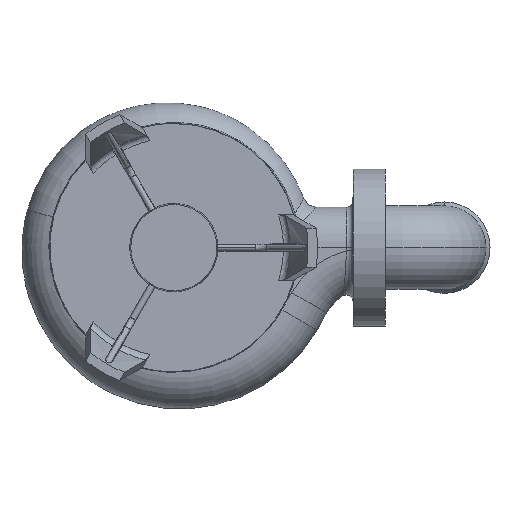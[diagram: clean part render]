
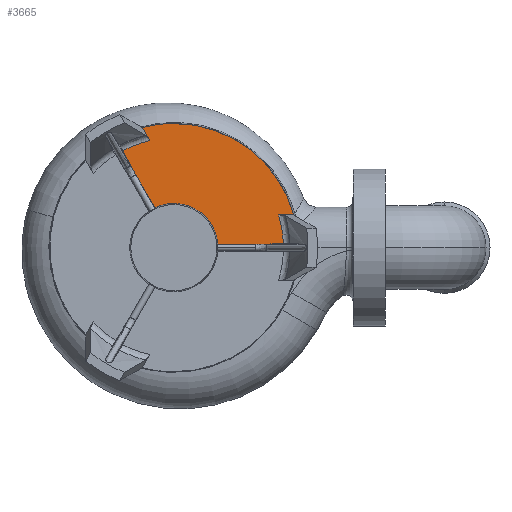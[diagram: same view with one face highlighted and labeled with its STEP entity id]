
A CAD part, front view. The second image highlights one B-rep face of the part: STEP entity #3665.
In plain terms, the highlighted planar face has unit normal (0, -1, 0).
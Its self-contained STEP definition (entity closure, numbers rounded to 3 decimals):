
#31 = CARTESIAN_POINT ( 'NONE',  ( -39.255, -36., 74.138 ) ) ;
#77 = CARTESIAN_POINT ( 'NONE',  ( -48.602, -36., 134.181 ) ) ;
#188 = DIRECTION ( 'NONE',  ( -1., 0., 0. ) ) ;
#247 = CIRCLE ( 'NONE', #6504, 33.787 ) ;
#459 = EDGE_CURVE ( 'NONE', #6564, #3264, #9235, .T. ) ;
#560 = ORIENTED_EDGE ( 'NONE', *, *, #6048, .T. ) ;
#847 = LINE ( 'NONE', #8660, #1995 ) ;
#907 = DIRECTION ( 'NONE',  ( -0.475, 0., 0.88 ) ) ;
#1137 = ORIENTED_EDGE ( 'NONE', *, *, #7713, .F. ) ;
#1152 = VERTEX_POINT ( 'NONE', #3339 ) ;
#1372 = DIRECTION ( 'NONE',  ( 0., -1., 0. ) ) ;
#1388 = AXIS2_PLACEMENT_3D ( 'NONE', #7708, #3968, #6278 ) ;
#1396 = AXIS2_PLACEMENT_3D ( 'NONE', #4923, #5743, #3465 ) ;
#1411 = DIRECTION ( 'NONE',  ( 0., 0., 1. ) ) ;
#1445 = EDGE_CURVE ( 'NONE', #5141, #4464, #3178, .T. ) ;
#1634 = EDGE_CURVE ( 'NONE', #5141, #6090, #847, .T. ) ;
#1662 = LINE ( 'NONE', #4724, #3315 ) ;
#1685 = AXIS2_PLACEMENT_3D ( 'NONE', #4402, #8964, #8203 ) ;
#1723 = ORIENTED_EDGE ( 'NONE', *, *, #459, .F. ) ;
#1995 = VECTOR ( 'NONE', #188, 1000. ) ;
#2020 = ORIENTED_EDGE ( 'NONE', *, *, #1634, .F. ) ;
#2264 = CARTESIAN_POINT ( 'NONE',  ( 0., -36., 0. ) ) ;
#2273 = CIRCLE ( 'NONE', #7085, 95. ) ;
#2709 = ORIENTED_EDGE ( 'NONE', *, *, #8032, .T. ) ;
#2855 = CARTESIAN_POINT ( 'NONE',  ( 0., -36., 0. ) ) ;
#3178 = LINE ( 'NONE', #7767, #9105 ) ;
#3264 = VERTEX_POINT ( 'NONE', #31 ) ;
#3299 = CARTESIAN_POINT ( 'NONE',  ( 68., -36., 2.62 ) ) ;
#3315 = VECTOR ( 'NONE', #7807, 1000. ) ;
#3339 = CARTESIAN_POINT ( 'NONE',  ( -18.388, -36., 81.849 ) ) ;
#3465 = DIRECTION ( 'NONE',  ( 0., 0., -1. ) ) ;
#3501 = DIRECTION ( 'NONE',  ( 0., 1., 0. ) ) ;
#3595 = ORIENTED_EDGE ( 'NONE', *, *, #8637, .T. ) ;
#3665 = ADVANCED_FACE ( 'NONE', ( #5218 ), #5117, .T. ) ;
#3968 = DIRECTION ( 'NONE',  ( 0., -1., 0. ) ) ;
#3982 = ORIENTED_EDGE ( 'NONE', *, *, #7651, .T. ) ;
#4289 = DIRECTION ( 'NONE',  ( -0.5, 0., 0.866 ) ) ;
#4402 = CARTESIAN_POINT ( 'NONE',  ( 95., -36., 0. ) ) ;
#4464 = VERTEX_POINT ( 'NONE', #6041 ) ;
#4484 = CARTESIAN_POINT ( 'NONE',  ( 91.652, -36., 25. ) ) ;
#4594 = DIRECTION ( 'NONE',  ( 1., 0., 0.029 ) ) ;
#4724 = CARTESIAN_POINT ( 'NONE',  ( 110., -36., 25. ) ) ;
#4811 = EDGE_CURVE ( 'NONE', #9376, #5839, #2273, .T. ) ;
#4923 = CARTESIAN_POINT ( 'NONE',  ( 0., -36., 0. ) ) ;
#4965 = DIRECTION ( 'NONE',  ( 0., 1., 0. ) ) ;
#5117 = PLANE ( 'NONE',  #1685 ) ;
#5136 = DIRECTION ( 'NONE',  ( 0., 1., 0. ) ) ;
#5141 = VERTEX_POINT ( 'NONE', #3299 ) ;
#5218 = FACE_OUTER_BOUND ( 'NONE', #9944, .T. ) ;
#5253 = CARTESIAN_POINT ( 'NONE',  ( 0., -36., 0. ) ) ;
#5262 = CARTESIAN_POINT ( 'NONE',  ( 80.078, -36., 25. ) ) ;
#5325 = ORIENTED_EDGE ( 'NONE', *, *, #1445, .T. ) ;
#5737 = VERTEX_POINT ( 'NONE', #6702 ) ;
#5743 = DIRECTION ( 'NONE',  ( 0., 1., 0. ) ) ;
#5839 = VERTEX_POINT ( 'NONE', #4484 ) ;
#5861 = VECTOR ( 'NONE', #907, 1000. ) ;
#6001 = ORIENTED_EDGE ( 'NONE', *, *, #6955, .T. ) ;
#6041 = CARTESIAN_POINT ( 'NONE',  ( 83.833, -36., 3.073 ) ) ;
#6048 = EDGE_CURVE ( 'NONE', #5737, #6090, #247, .T. ) ;
#6090 = VERTEX_POINT ( 'NONE', #9169 ) ;
#6125 = LINE ( 'NONE', #77, #7004 ) ;
#6201 = CIRCLE ( 'NONE', #1388, 83.889 ) ;
#6278 = DIRECTION ( 'NONE',  ( 0., 0., 1. ) ) ;
#6366 = AXIS2_PLACEMENT_3D ( 'NONE', #5253, #1372, #6893 ) ;
#6504 = AXIS2_PLACEMENT_3D ( 'NONE', #2855, #4965, #6571 ) ;
#6564 = VERTEX_POINT ( 'NONE', #7211 ) ;
#6568 = DIRECTION ( 'NONE',  ( 0., 0., -1. ) ) ;
#6571 = DIRECTION ( 'NONE',  ( 0., 0., 1. ) ) ;
#6595 = LINE ( 'NONE', #9687, #7164 ) ;
#6702 = CARTESIAN_POINT ( 'NONE',  ( 0., -36., 33.787 ) ) ;
#6893 = DIRECTION ( 'NONE',  ( 0., 0., 1. ) ) ;
#6942 = CARTESIAN_POINT ( 'NONE',  ( 22.031, -36., -39.391 ) ) ;
#6955 = EDGE_CURVE ( 'NONE', #1152, #3264, #6201, .T. ) ;
#6997 = EDGE_CURVE ( 'NONE', #9847, #9376, #8471, .T. ) ;
#7004 = VECTOR ( 'NONE', #7688, 1000. ) ;
#7085 = AXIS2_PLACEMENT_3D ( 'NONE', #7329, #3501, #6568 ) ;
#7164 = VECTOR ( 'NONE', #4289, 1000. ) ;
#7211 = CARTESIAN_POINT ( 'NONE',  ( -31.731, -36., 60.2 ) ) ;
#7297 = ORIENTED_EDGE ( 'NONE', *, *, #6997, .F. ) ;
#7329 = CARTESIAN_POINT ( 'NONE',  ( 0., -36., 0. ) ) ;
#7390 = ORIENTED_EDGE ( 'NONE', *, *, #4811, .F. ) ;
#7525 = EDGE_CURVE ( 'NONE', #8434, #6564, #6595, .T. ) ;
#7587 = ORIENTED_EDGE ( 'NONE', *, *, #7525, .F. ) ;
#7651 = EDGE_CURVE ( 'NONE', #4464, #9339, #8477, .T. ) ;
#7678 = CIRCLE ( 'NONE', #8333, 33.787 ) ;
#7688 = DIRECTION ( 'NONE',  ( 0.5, 0., -0.866 ) ) ;
#7708 = CARTESIAN_POINT ( 'NONE',  ( 0., -36., 0. ) ) ;
#7713 = EDGE_CURVE ( 'NONE', #5839, #9339, #1662, .T. ) ;
#7767 = CARTESIAN_POINT ( 'NONE',  ( 94.903, -36., 3.39 ) ) ;
#7807 = DIRECTION ( 'NONE',  ( -1., 0., 0. ) ) ;
#8032 = EDGE_CURVE ( 'NONE', #8434, #5737, #7678, .T. ) ;
#8203 = DIRECTION ( 'NONE',  ( 0., 0., 1. ) ) ;
#8333 = AXIS2_PLACEMENT_3D ( 'NONE', #2264, #5136, #1411 ) ;
#8434 = VERTEX_POINT ( 'NONE', #9119 ) ;
#8471 = CIRCLE ( 'NONE', #1396, 95. ) ;
#8477 = CIRCLE ( 'NONE', #6366, 83.889 ) ;
#8637 = EDGE_CURVE ( 'NONE', #9847, #1152, #6125, .T. ) ;
#8660 = CARTESIAN_POINT ( 'NONE',  ( -500000., -36., 2.62 ) ) ;
#8964 = DIRECTION ( 'NONE',  ( 0., -1., 0. ) ) ;
#9105 = VECTOR ( 'NONE', #4594, 1000. ) ;
#9119 = CARTESIAN_POINT ( 'NONE',  ( -14.574, -36., 30.483 ) ) ;
#9154 = CARTESIAN_POINT ( 'NONE',  ( 0., -36., 95. ) ) ;
#9169 = CARTESIAN_POINT ( 'NONE',  ( 33.686, -36., 2.62 ) ) ;
#9235 = LINE ( 'NONE', #6942, #5861 ) ;
#9339 = VERTEX_POINT ( 'NONE', #5262 ) ;
#9376 = VERTEX_POINT ( 'NONE', #9154 ) ;
#9687 = CARTESIAN_POINT ( 'NONE',  ( 288676.682, -36., -499997.44 ) ) ;
#9824 = CARTESIAN_POINT ( 'NONE',  ( -24.175, -36., 91.873 ) ) ;
#9847 = VERTEX_POINT ( 'NONE', #9824 ) ;
#9944 = EDGE_LOOP ( 'NONE', ( #6001, #1723, #7587, #2709, #560, #2020, #5325, #3982, #1137, #7390, #7297, #3595 ) ) ;
